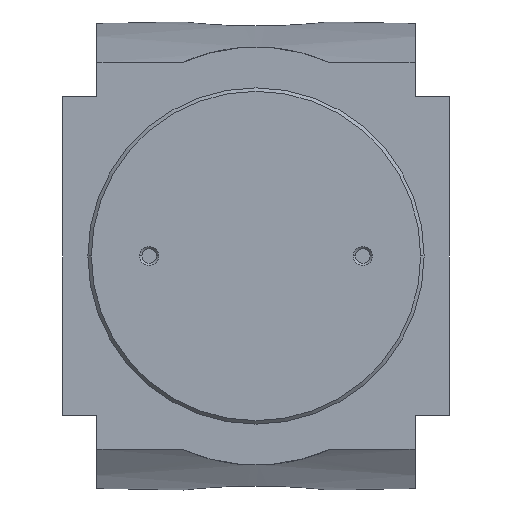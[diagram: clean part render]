
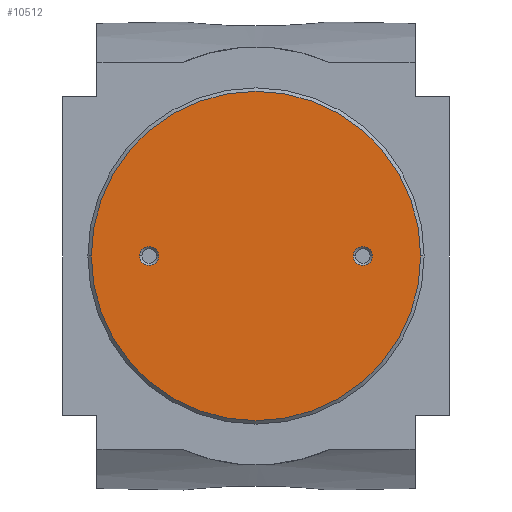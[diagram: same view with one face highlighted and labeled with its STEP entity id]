
A CAD part, front view. The second image highlights one B-rep face of the part: STEP entity #10512.
In plain terms, the highlighted planar face has unit normal (0, -1, 0).
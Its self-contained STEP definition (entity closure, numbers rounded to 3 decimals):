
#4030=CARTESIAN_POINT('',(0.,-3.,0.));
#4031=DIRECTION('',(0.,1.,0.));
#4032=DIRECTION('',(-1.,0.,0.));
#4033=AXIS2_PLACEMENT_3D('',#4030,#4031,#4032);
#4035=CARTESIAN_POINT('',(0.,-3.,0.));
#4036=DIRECTION('',(0.,-1.,0.));
#4037=DIRECTION('',(-1.,0.,0.));
#4038=AXIS2_PLACEMENT_3D('',#4035,#4036,#4037);
#4040=CARTESIAN_POINT('',(-23.5,-3.,0.));
#4041=DIRECTION('',(0.,1.,0.));
#4042=DIRECTION('',(-1.,0.,0.));
#4043=AXIS2_PLACEMENT_3D('',#4040,#4041,#4042);
#4045=CARTESIAN_POINT('',(-23.5,-3.,0.));
#4046=DIRECTION('',(0.,1.,0.));
#4047=DIRECTION('',(1.,0.,0.));
#4048=AXIS2_PLACEMENT_3D('',#4045,#4046,#4047);
#4050=CARTESIAN_POINT('',(23.5,-3.,0.));
#4051=DIRECTION('',(0.,1.,0.));
#4052=DIRECTION('',(-1.,0.,0.));
#4053=AXIS2_PLACEMENT_3D('',#4050,#4051,#4052);
#4055=CARTESIAN_POINT('',(23.5,-3.,0.));
#4056=DIRECTION('',(0.,1.,0.));
#4057=DIRECTION('',(1.,0.,0.));
#4058=AXIS2_PLACEMENT_3D('',#4055,#4056,#4057);
#4504=CARTESIAN_POINT('',(-36.25,-3.,0.));
#4505=VERTEX_POINT('',#4504);
#4510=CARTESIAN_POINT('',(36.25,-3.,0.));
#4511=VERTEX_POINT('',#4510);
#4584=CARTESIAN_POINT('',(-25.6,-3.,0.));
#4585=CARTESIAN_POINT('',(-21.4,-3.,0.));
#4586=VERTEX_POINT('',#4584);
#4587=VERTEX_POINT('',#4585);
#4592=CARTESIAN_POINT('',(21.4,-3.,0.));
#4593=CARTESIAN_POINT('',(25.6,-3.,0.));
#4594=VERTEX_POINT('',#4592);
#4595=VERTEX_POINT('',#4593);
#10491=CARTESIAN_POINT('',(0.,-3.,0.));
#10492=DIRECTION('',(0.,-1.,0.));
#10493=DIRECTION('',(-1.,0.,0.));
#10494=AXIS2_PLACEMENT_3D('',#10491,#10492,#10493);
#10495=PLANE('',#10494);
#10496=ORIENTED_EDGE('',*,*,#10486,.T.);
#10497=ORIENTED_EDGE('',*,*,#10470,.F.);
#10498=EDGE_LOOP('',(#10496,#10497));
#10499=FACE_OUTER_BOUND('',#10498,.F.);
#10501=ORIENTED_EDGE('',*,*,#10500,.F.);
#10503=ORIENTED_EDGE('',*,*,#10502,.F.);
#10504=EDGE_LOOP('',(#10501,#10503));
#10505=FACE_BOUND('',#10504,.F.);
#10507=ORIENTED_EDGE('',*,*,#10506,.F.);
#10509=ORIENTED_EDGE('',*,*,#10508,.F.);
#10510=EDGE_LOOP('',(#10507,#10509));
#10511=FACE_BOUND('',#10510,.F.);
#10512=ADVANCED_FACE('',(#10499,#10505,#10511),#10495,.T.);
#4034=CIRCLE('',#4033,36.25);
#4039=CIRCLE('',#4038,36.25);
#4044=CIRCLE('',#4043,2.1);
#4049=CIRCLE('',#4048,2.1);
#4054=CIRCLE('',#4053,2.1);
#4059=CIRCLE('',#4058,2.1);
#10470=EDGE_CURVE('',#4505,#4511,#4039,.T.);
#10486=EDGE_CURVE('',#4505,#4511,#4034,.T.);
#10500=EDGE_CURVE('',#4586,#4587,#4044,.T.);
#10502=EDGE_CURVE('',#4587,#4586,#4049,.T.);
#10506=EDGE_CURVE('',#4594,#4595,#4054,.T.);
#10508=EDGE_CURVE('',#4595,#4594,#4059,.T.);
